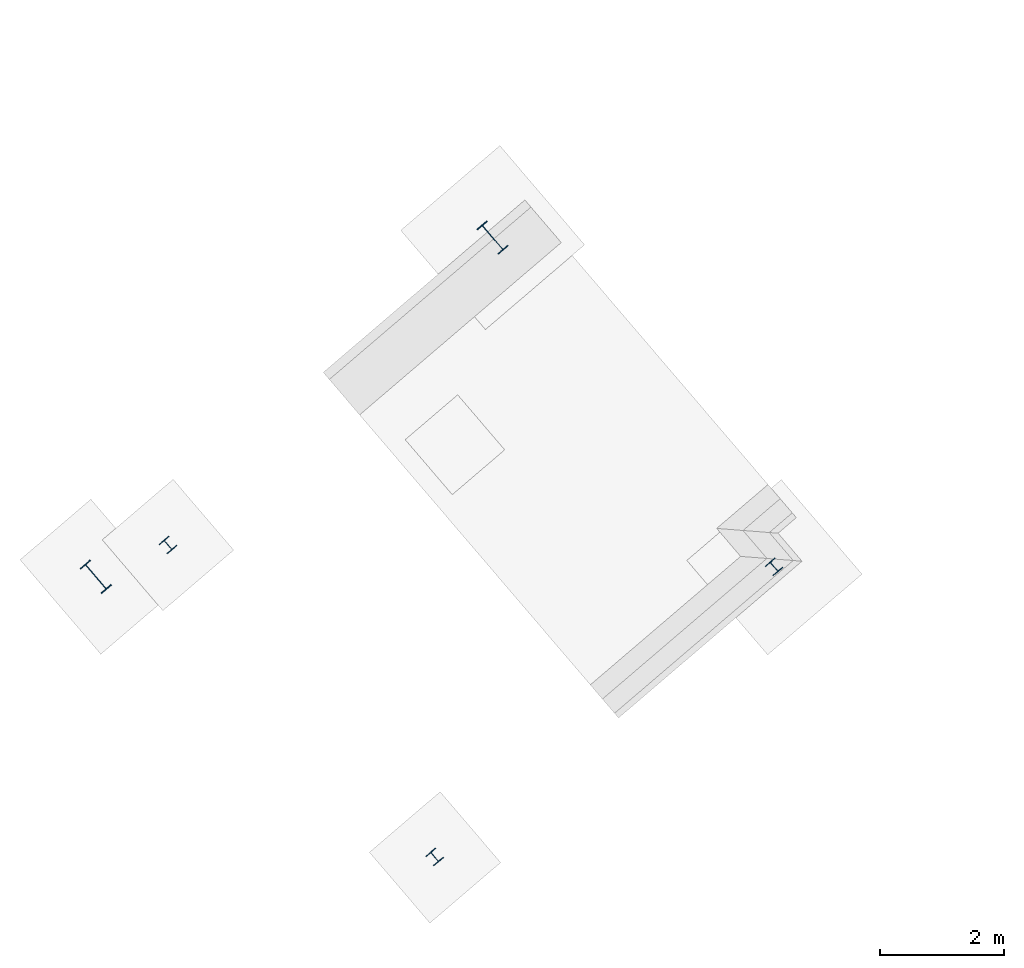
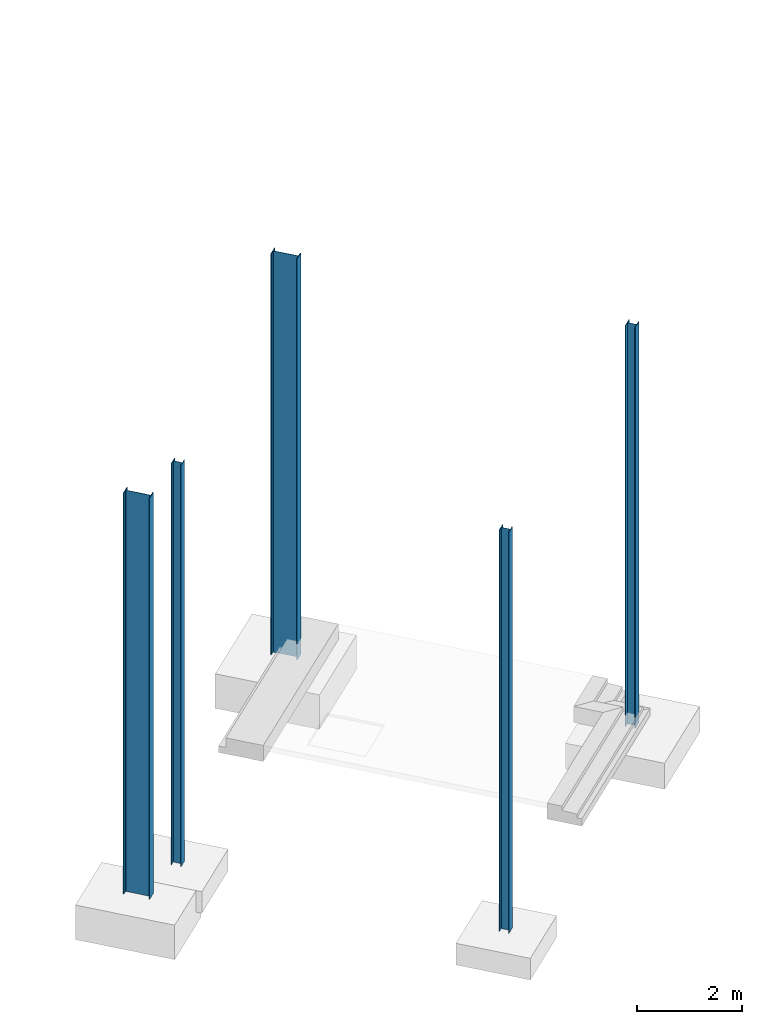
# One storey, part 1 of 41: 5 columns.
"""IFC2X3 building model written with IfcOpenShell, lengths in millimetres."""

from ifc_helpers import new_model, entity, si_unit, converted_unit, derived_unit, direction, frame, frame_2d, origin, place, context, subcontext, project, spatial, polyline, circle_curve, parameter, trimmed, segment, composite_curve, outline, extrude, source, transform, mapped, material, type_object, type_shapes, element, save


model = new_model("IFC2X3")

# Units and contexts
model_context = context("Model", 3, precision=0.01, world=origin(), true_north=direction((6.123031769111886e-17, 1.0)))
body_context = subcontext(model_context, "Body", "Model", "MODEL_VIEW")
ifc_project = project(units=[si_unit("LENGTHUNIT", "METRE", prefix="MILLI"), si_unit("AREAUNIT", "SQUARE_METRE"), si_unit("VOLUMEUNIT", "CUBIC_METRE"), converted_unit("PLANEANGLEUNIT", "DEGREE", entity("IfcRatioMeasure", 0.017453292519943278), si_unit("PLANEANGLEUNIT", "RADIAN"), dimensions=[0, 0, 0, 0, 0, 0, 0]), si_unit("MASSUNIT", "GRAM", prefix="KILO"), derived_unit("MASSDENSITYUNIT", [(si_unit("MASSUNIT", "GRAM", prefix="KILO"), 1), (si_unit("LENGTHUNIT", "METRE"), -3)]), derived_unit("MOMENTOFINERTIAUNIT", [(si_unit("LENGTHUNIT", "METRE"), 4)]), si_unit("TIMEUNIT", "SECOND"), si_unit("FREQUENCYUNIT", "HERTZ"), si_unit("THERMODYNAMICTEMPERATUREUNIT", "DEGREE_CELSIUS"), derived_unit("THERMALTRANSMITTANCEUNIT", [(si_unit("MASSUNIT", "GRAM", prefix="KILO"), 1), (si_unit("THERMODYNAMICTEMPERATUREUNIT", "KELVIN"), -1), (si_unit("TIMEUNIT", "SECOND"), -3)]), derived_unit("VOLUMETRICFLOWRATEUNIT", [(si_unit("LENGTHUNIT", "METRE"), 3), (si_unit("TIMEUNIT", "SECOND"), -1)]), derived_unit("MASSFLOWRATEUNIT", [(si_unit("MASSUNIT", "GRAM", prefix="KILO"), 1), (si_unit("TIMEUNIT", "SECOND"), -1)]), derived_unit("ROTATIONALFREQUENCYUNIT", [(si_unit("TIMEUNIT", "SECOND"), -1)]), si_unit("ELECTRICCURRENTUNIT", "AMPERE"), si_unit("ELECTRICVOLTAGEUNIT", "VOLT"), si_unit("POWERUNIT", "WATT"), si_unit("FORCEUNIT", "NEWTON", prefix="KILO"), si_unit("ILLUMINANCEUNIT", "LUX"), si_unit("LUMINOUSFLUXUNIT", "LUMEN"), si_unit("LUMINOUSINTENSITYUNIT", "CANDELA"), derived_unit("USERDEFINED", [(si_unit("MASSUNIT", "GRAM", prefix="KILO"), -1), (si_unit("LENGTHUNIT", "METRE"), -2), (si_unit("TIMEUNIT", "SECOND"), 3), (si_unit("LUMINOUSFLUXUNIT", "LUMEN"), 1)]), derived_unit("SOUNDPOWERUNIT", [(si_unit("MASSUNIT", "GRAM", prefix="KILO"), 1), (si_unit("LENGTHUNIT", "METRE"), 2), (si_unit("TIMEUNIT", "SECOND"), -3)]), derived_unit("LINEARVELOCITYUNIT", [(si_unit("LENGTHUNIT", "METRE"), 1), (si_unit("TIMEUNIT", "SECOND"), -1)]), si_unit("PRESSUREUNIT", "PASCAL"), derived_unit("USERDEFINED", [(si_unit("LENGTHUNIT", "METRE"), -2), (si_unit("MASSUNIT", "GRAM", prefix="KILO"), 1), (si_unit("TIMEUNIT", "SECOND"), -2)]), derived_unit("LINEARFORCEUNIT", [(si_unit("MASSUNIT", "GRAM", prefix="KILO"), 1), (si_unit("LENGTHUNIT", "METRE"), 1), (si_unit("TIMEUNIT", "SECOND"), -2), (si_unit("LENGTHUNIT", "METRE"), -1)]), derived_unit("PLANARFORCEUNIT", [(si_unit("MASSUNIT", "GRAM", prefix="KILO"), 1), (si_unit("LENGTHUNIT", "METRE"), 1), (si_unit("TIMEUNIT", "SECOND"), -2), (si_unit("LENGTHUNIT", "METRE"), -2)])], contexts=[model_context])

# Site, building, storey
site_placement = place(None, frame((962.4174930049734, -6014.433753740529, 0.0), z_axis=(0.0, 0.0, 1.0), x_axis=(0.7601792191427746, 0.649713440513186, 0.0)))
site = spatial("IfcSite", under=ifc_project, at=site_placement, Name="Default", CompositionType="ELEMENT")
building_placement = place(site_placement, origin())
building = spatial("IfcBuilding", under=site, at=building_placement, CompositionType="ELEMENT")
storey_placement = place(building_placement, origin())
storey = spatial("IfcBuildingStorey", under=building, at=storey_placement, Name="Datum", CompositionType="ELEMENT", Elevation=0.0)

# Columns
ifc_material = material(Name="Metal - Steel - 300 MPa")
column_type_1 = type_object("IfcColumnType", Name="ADSK_AU_UB-Universal Beams-Column (AS 3679_1):530UB92.4", PredefinedType="COLUMN", material=ifc_material)
shared_shape_1 = source(origin(), body_context, "Body", "SweptSolid", [
    extrude(outline(composite_curve([segment(polyline([(250.89999999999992, -104.49999999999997), (266.5, -104.49999999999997)]), True, "CONTINUOUS"), segment(polyline([(266.5, -104.49999999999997), (266.5, 104.49999999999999)]), True, "CONTINUOUS"), segment(polyline([(266.5, 104.49999999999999), (250.89999999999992, 104.49999999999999)]), True, "CONTINUOUS"), segment(polyline([(250.89999999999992, 104.49999999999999), (250.89999999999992, 19.099999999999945)]), True, "CONTINUOUS"), segment(trimmed(circle_curve(frame_2d((236.89999999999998, 19.099999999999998), x_axis=(1.0, 0.0)), 13.999999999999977), [parameter(269.9999999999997)], [parameter(0.0)], True, "PARAMETER"), False, "CONTINUOUS"), segment(polyline([(236.90000000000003, 5.099999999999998), (-236.89999999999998, 5.099999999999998)]), True, "CONTINUOUS"), segment(trimmed(circle_curve(frame_2d((-236.89999999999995, 19.100000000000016), x_axis=(0.0, -1.0)), 13.999999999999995), [parameter(269.9999999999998)], [parameter(0.0)], True, "PARAMETER"), False, "CONTINUOUS"), segment(polyline([(-250.89999999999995, 19.10000000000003), (-250.89999999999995, 104.49999999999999)]), True, "CONTINUOUS"), segment(polyline([(-250.89999999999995, 104.49999999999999), (-266.49999999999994, 104.49999999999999)]), True, "CONTINUOUS"), segment(polyline([(-266.49999999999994, 104.49999999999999), (-266.49999999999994, -104.49999999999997)]), True, "CONTINUOUS"), segment(polyline([(-266.49999999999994, -104.49999999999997), (-250.89999999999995, -104.49999999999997)]), True, "CONTINUOUS"), segment(polyline([(-250.89999999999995, -104.49999999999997), (-250.89999999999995, -19.099999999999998)]), True, "CONTINUOUS"), segment(trimmed(circle_curve(frame_2d((-236.89999999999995, -19.099999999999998), x_axis=(-1.0, 0.0)), 13.999999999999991), [parameter(269.99999999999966)], [parameter(0.0)], True, "PARAMETER"), False, "CONTINUOUS"), segment(polyline([(-236.89999999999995, -5.100000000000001), (236.89999999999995, -5.100000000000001)]), True, "CONTINUOUS"), segment(trimmed(circle_curve(frame_2d((236.89999999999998, -19.099999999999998), x_axis=(0.0, 1.0)), 14.0), [parameter(269.99999999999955)], [parameter(0.0)], True, "PARAMETER"), False, "CONTINUOUS"), segment(polyline([(250.89999999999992, -19.099999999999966), (250.89999999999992, -104.49999999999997)]), True, "CONTINUOUS")], self_intersect=False)), frame((0.0, 0.0, -370.0), z_axis=(0.0, 0.0, 1.0), x_axis=(0.0, -1.0, 0.0)), (0.0, 0.0, 1.0), 9295.000000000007),
])
type_shapes(column_type_1, [shared_shape_1])
for number, where in (
    (1, (61304.4602047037, -33132.42808212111, 0.0)),
    (2, (69704.46020470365, -33132.428082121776, 0.0)),
):
    element("IfcColumn", number, at=place(storey_placement, frame(where)), inside=storey, type_object=column_type_1, material=ifc_material, Name="ADSK_AU_UB-Universal Beams-Column (AS 3679_1):530UB92.4", ObjectType="ADSK_AU_UB-Universal Beams-Column (AS 3679_1):530UB92.4", context=body_context, shape_type="MappedRepresentation", body=[
        mapped(shared_shape_1, transform((0.0, 0.0, 0.0), scale=1.0)),
    ])
column_type_2 = type_object("IfcColumnType", Name="ADSK_AU_UC-Universal Columns-Column (AS 3679_1):200UC46.2", PredefinedType="COLUMN", material=ifc_material)
shared_shape_2 = source(origin(), body_context, "Body", "SweptSolid", [
    extrude(outline(composite_curve([segment(polyline([(90.69999999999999, -101.49999999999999), (101.7, -101.49999999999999)]), True, "CONTINUOUS"), segment(polyline([(101.7, -101.49999999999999), (101.7, 101.49999999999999)]), True, "CONTINUOUS"), segment(polyline([(101.7, 101.49999999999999), (90.69999999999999, 101.49999999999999)]), True, "CONTINUOUS"), segment(polyline([(90.69999999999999, 101.49999999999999), (90.69999999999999, 15.050000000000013)]), True, "CONTINUOUS"), segment(trimmed(circle_curve(frame_2d((79.29999999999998, 15.049999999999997), x_axis=(1.0, 0.0)), 11.400000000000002), [parameter(269.99999999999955)], [parameter(0.0)], True, "PARAMETER"), False, "CONTINUOUS"), segment(polyline([(79.29999999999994, 3.6499999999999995), (-79.3, 3.6499999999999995)]), True, "CONTINUOUS"), segment(trimmed(circle_curve(frame_2d((-79.29999999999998, 15.050000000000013), x_axis=(0.0, -1.0)), 11.400000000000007), [parameter(269.99999999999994)], [parameter(0.0)], True, "PARAMETER"), False, "CONTINUOUS"), segment(polyline([(-90.69999999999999, 15.050000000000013), (-90.69999999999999, 101.49999999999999)]), True, "CONTINUOUS"), segment(polyline([(-90.69999999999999, 101.49999999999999), (-101.69999999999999, 101.49999999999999)]), True, "CONTINUOUS"), segment(polyline([(-101.69999999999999, 101.49999999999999), (-101.69999999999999, -101.49999999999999)]), True, "CONTINUOUS"), segment(polyline([(-101.69999999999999, -101.49999999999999), (-90.69999999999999, -101.49999999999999)]), True, "CONTINUOUS"), segment(polyline([(-90.69999999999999, -101.49999999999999), (-90.69999999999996, -15.049999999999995)]), True, "CONTINUOUS"), segment(trimmed(circle_curve(frame_2d((-79.29999999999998, -15.04999999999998), x_axis=(-1.0, 0.0)), 11.399999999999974), [parameter(269.99999999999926)], [parameter(0.0)], True, "PARAMETER"), False, "CONTINUOUS"), segment(polyline([(-79.29999999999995, -3.6499999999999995), (79.3, -3.6499999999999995)]), True, "CONTINUOUS"), segment(trimmed(circle_curve(frame_2d((79.30000000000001, -15.04999999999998), x_axis=(0.0, 1.0)), 11.39999999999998), [parameter(269.99999999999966)], [parameter(0.0)], True, "PARAMETER"), False, "CONTINUOUS"), segment(polyline([(90.69999999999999, -15.04999999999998), (90.69999999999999, -101.49999999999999)]), True, "CONTINUOUS")], self_intersect=False)), frame((0.0, 0.0, -370.0), z_axis=(0.0, 0.0, 1.0), x_axis=(0.0, -1.0, 0.0)), (0.0, 0.0, 1.0), 9295.000000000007),
])
type_shapes(column_type_2, [shared_shape_2])
for number, where in (
    (3, (62519.46020471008, -33498.92808212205, 0.0)),
    (4, (62519.46020471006, -40101.92808212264, 0.0)),
    (5, (69704.46020470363, -40101.92808212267, 0.0)),
):
    element("IfcColumn", number, at=place(storey_placement, frame(where)), inside=storey, type_object=column_type_2, material=ifc_material, Name="ADSK_AU_UC-Universal Columns-Column (AS 3679_1):200UC46.2", ObjectType="ADSK_AU_UC-Universal Columns-Column (AS 3679_1):200UC46.2", context=body_context, shape_type="MappedRepresentation", body=[
        mapped(shared_shape_2, transform((0.0, 0.0, 0.0), scale=1.0)),
    ])

save(model, "model.ifc")
